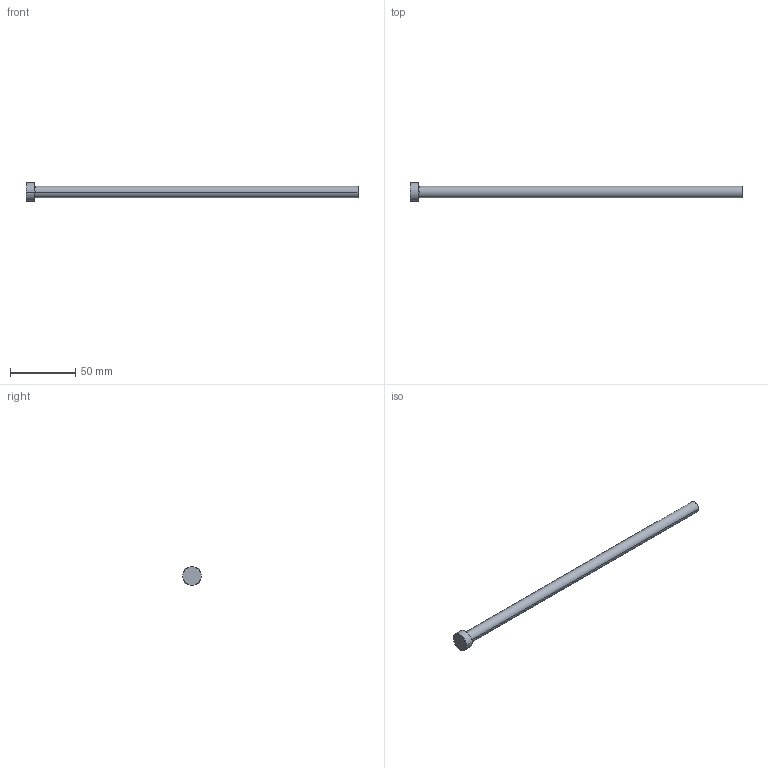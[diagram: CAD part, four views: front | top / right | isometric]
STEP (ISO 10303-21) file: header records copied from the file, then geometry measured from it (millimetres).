
FILE_DESCRIPTION (( 'STEP AP214' ), '1' );
FILE_NAME ('P23-10.STEP', '2020-03-12T09:42:35', ( '' ), ( '' ), 'SwSTEP 2.0', 'SolidWorks 2018', '' );
FILE_SCHEMA (( 'AUTOMOTIVE_DESIGN' ));
Length unit declared in the file: inch
Products named in the file (1): P23-10
Bounding box: 254 x 14.29 x 14.29 mm (x, y, z)
Volume: 15823.2 mm3; surface area: 7378.7 mm2
Topology: 1 solids, 1 shells, 13 faces, 24 edges, 14 vertices
Faces by surface type: cone 4, cylinder 4, plane 3, torus 2
Entity records: 366 total; most frequent: DIRECTION 68, CARTESIAN_POINT 52, ORIENTED_EDGE 48, AXIS2_PLACEMENT_3D 30, EDGE_CURVE 24, CIRCLE 16, VERTEX_POINT 14, EDGE_LOOP 14
